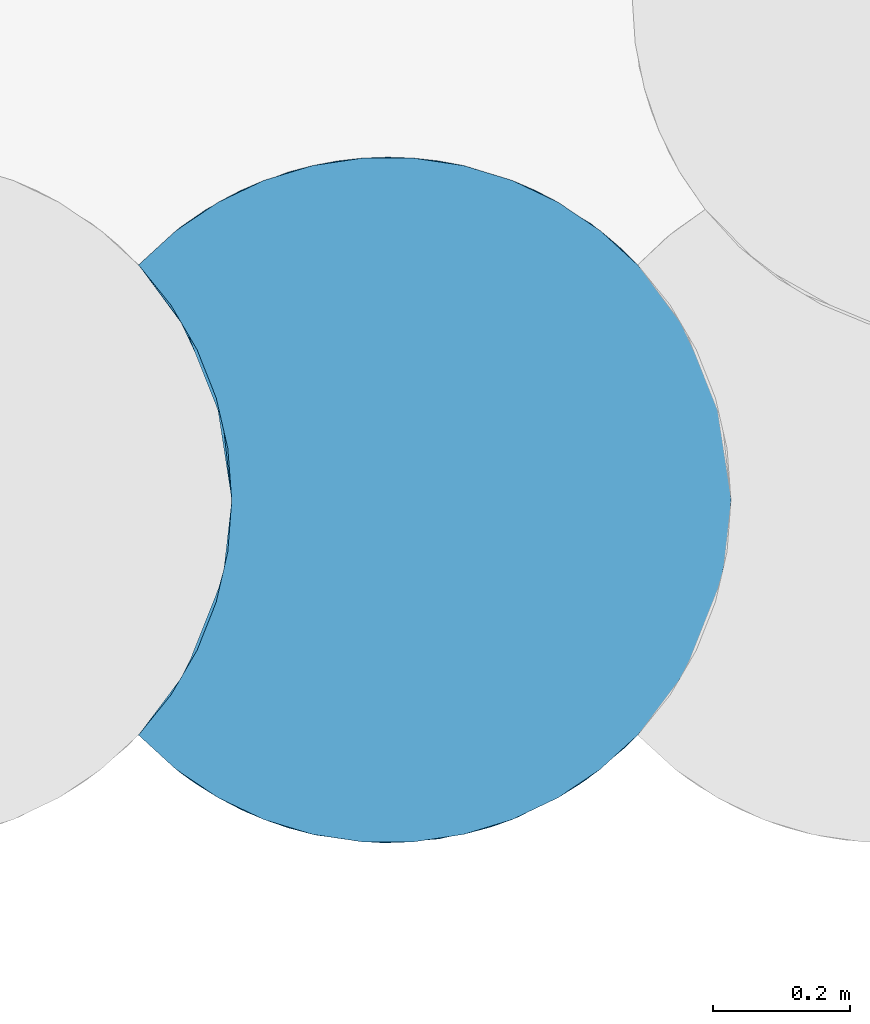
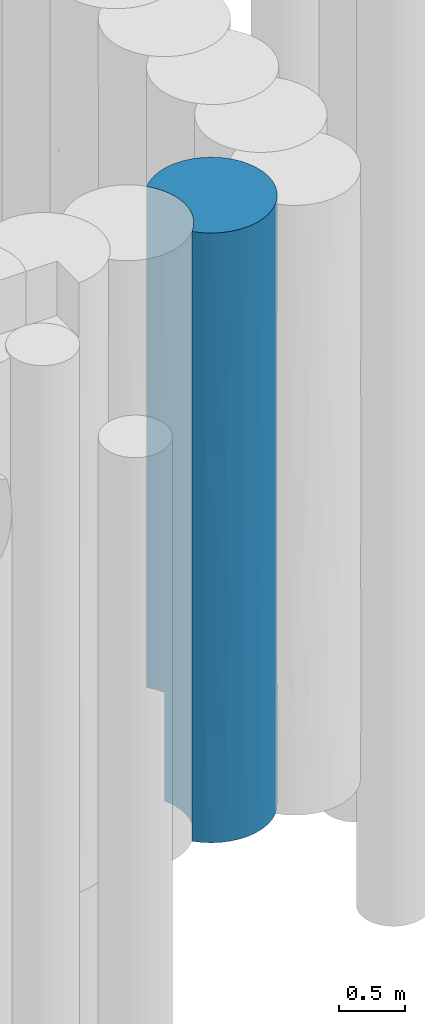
# One storey, part 51 of 104: 1 pile.
"""IFC2X3 building model written with IfcOpenShell, lengths in millimetres."""

import ifcopenshell
import ifcopenshell.guid

model = None  # the IFC model being written
_history = None  # IfcOwnerHistory: only IFC2X3 demands one
_inside = {}  # id of a spatial element -> (the spatial element, [elements in it])
_under = {}  # id of a project, library or spatial element -> (it, [spatial elements below it])
_declared = {}  # id of a project -> (the project, [libraries it declares])
_typed = {}  # id of a type object -> (the type object, [elements of that type])
_made_of = {}  # id of a material, layer set ... -> (it, [elements and type objects made of it])


def new_model(schema):
    """Start an empty IFC model of exactly this schema.

    Asked for "IFC4X3", IfcOpenShell would pick the latest addendum, in which some entities
    have other attributes; the version numbers below select the first issue.
    IFC2X3 requires an IfcOwnerHistory on every rooted entity: one is made here for all.
    """
    global model, _history
    if schema == "IFC4X3":
        model = ifcopenshell.file(schema_version=(4, 3, 0, 0))
    else:
        model = ifcopenshell.file(schema=schema)
    _inside.clear()
    _under.clear()
    _declared.clear()
    _typed.clear()
    _made_of.clear()
    _history = None
    if model.schema == "IFC2X3":
        org = make("IfcOrganization", Name="unknown")
        user = make(
            "IfcPersonAndOrganization",
            ThePerson=make("IfcPerson", FamilyName="unknown"),
            TheOrganization=org,
        )
        app = make(
            "IfcApplication",
            ApplicationDeveloper=org,
            Version="unknown",
            ApplicationFullName="unknown",
            ApplicationIdentifier="unknown",
        )
        _history = make(
            "IfcOwnerHistory",
            OwningUser=user,
            OwningApplication=app,
            ChangeAction="ADDED",
            CreationDate=0,
        )
    return model


def make(cls, **values):
    """One entity of the class cls with the attributes given. An attribute that is None is left unset."""
    return model.create_entity(
        cls, **{name: value for name, value in values.items() if value is not None}
    )


def entity(cls, *values):
    """Any entity or typed value of the class cls, its attributes in the order of the schema. None: left unset."""
    e = model.create_entity(cls)
    for i, value in enumerate(values):
        if value is not None:
            e[i] = value
    return e


def rooted(cls, **values):
    """An entity with a GlobalId (a new one), such as an element, a storey or a relation."""
    return make(cls, GlobalId=ifcopenshell.guid.new(), OwnerHistory=_history, **values)


def si_unit(unit_type, name, prefix=None):
    """IfcSIUnit, for example si_unit("LENGTHUNIT", "METRE", prefix="MILLI")."""
    return make("IfcSIUnit", UnitType=unit_type, Prefix=prefix, Name=name)


def converted_unit(unit_type, name, factor, base, dimensions=None, offset=None):
    """IfcConversionBasedUnit, such as the inch: factor (a typed value) times the base unit."""
    return make(
        "IfcConversionBasedUnit"
        if offset is None
        else "IfcConversionBasedUnitWithOffset",
        ConversionOffset=offset,
        Dimensions=None
        if dimensions is None
        else entity("IfcDimensionalExponents", *dimensions),
        UnitType=unit_type,
        Name=name,
        ConversionFactor=make(
            "IfcMeasureWithUnit", ValueComponent=factor, UnitComponent=base
        ),
    )


def derived_unit(unit_type, elements):
    """IfcDerivedUnit: a product of units, each with its exponent."""
    return make(
        "IfcDerivedUnit",
        Elements=[
            make("IfcDerivedUnitElement", Unit=unit, Exponent=power)
            for unit, power in elements
        ],
        UnitType=unit_type,
    )


def assignment(units):
    """IfcUnitAssignment: the units of a project."""
    return None if units is None else make("IfcUnitAssignment", Units=units)


def point(xyz):
    """IfcCartesianPoint."""
    return None if xyz is None else make("IfcCartesianPoint", Coordinates=xyz)


def direction(xyz):
    """IfcDirection."""
    return None if xyz is None else make("IfcDirection", DirectionRatios=xyz)


def frame(location, z_axis=None, x_axis=None):
    """IfcAxis2Placement3D, a coordinate frame: its origin and axes. An axis left out is left unset."""
    return make(
        "IfcAxis2Placement3D",
        Location=point(location),
        Axis=direction(z_axis),
        RefDirection=direction(x_axis),
    )


def origin():
    """The frame at (0, 0, 0) with its axes left unset."""
    return frame((0.0, 0.0, 0.0))


def place(relative_to, where):
    """IfcLocalPlacement: puts the frame where relative to a parent placement (None: the world)."""
    return make(
        "IfcLocalPlacement", PlacementRelTo=relative_to, RelativePlacement=where
    )


def context(
    kind, dimensions, precision=None, world=None, true_north=None, identifier=None
):
    """IfcGeometricRepresentationContext, for example the 3D "Model" context."""
    return make(
        "IfcGeometricRepresentationContext",
        ContextIdentifier=identifier,
        ContextType=kind,
        CoordinateSpaceDimension=dimensions,
        Precision=precision,
        WorldCoordinateSystem=world,
        TrueNorth=true_north,
    )


def subcontext(parent, identifier, kind, view, scale=None):
    """IfcGeometricRepresentationSubContext, for example "Body" below "Model"."""
    return make(
        "IfcGeometricRepresentationSubContext",
        ContextIdentifier=identifier,
        ContextType=kind,
        ParentContext=parent,
        TargetScale=scale,
        TargetView=view,
    )


def project(units=None, contexts=None):
    """IfcProject with its units and contexts."""
    return rooted(
        "IfcProject",
        Name="project",
        RepresentationContexts=contexts,
        UnitsInContext=assignment(units),
    )


def spatial(cls, under=None, at=None, **own):
    """A site, building, storey or space (cls), placed at a placement, below another one or the project."""
    s = rooted(cls, ObjectPlacement=at, **own)
    if under is not None:
        _under.setdefault(under.id(), (under, []))[1].append(s)
    return s


def faces_of(points, faces, orient=None, outer=None):
    """IfcFace entities. A face is a list of loops; a loop is a list of indices into points, from 0.

    orient and outer hold one flag for each loop. By default every Orientation is true, the
    first loop of a face is its IfcFaceOuterBound and the others are IfcFaceBound.
    """
    made = []
    for i, loops in enumerate(faces):
        bounds = []
        for j, loop in enumerate(loops):
            is_outer = j == 0 if outer is None else outer[i][j]
            bounds.append(
                make(
                    "IfcFaceOuterBound" if is_outer else "IfcFaceBound",
                    Bound=make("IfcPolyLoop", Polygon=[points[k] for k in loop]),
                    Orientation=True if orient is None else orient[i][j],
                )
            )
        made.append(make("IfcFace", Bounds=bounds))
    return made


def faceted_brep(points, faces, orient=None, outer=None, voids=None):
    """IfcFacetedBrep: a solid bounded by flat faces; with voids (closed shells), ...WithVoids."""
    shared = [point(p) for p in points]
    hull = make("IfcClosedShell", CfsFaces=faces_of(shared, faces, orient, outer))
    if voids is None:
        return make("IfcFacetedBrep", Outer=hull)
    return make(
        "IfcFacetedBrepWithVoids",
        Outer=hull,
        Voids=[
            make(cls, CfsFaces=faces_of(shared, fs, o, b)) for cls, fs, o, b in voids
        ],
    )


def shape(context_of_items, identifier, shape_type, items):
    """IfcShapeRepresentation: the items that make up one representation, for example the "Body"."""
    return make(
        "IfcShapeRepresentation",
        ContextOfItems=context_of_items,
        RepresentationIdentifier=identifier,
        RepresentationType=shape_type,
        Items=items,
    )


def source(mapping_origin, context_of_items, identifier, shape_type, items):
    """IfcRepresentationMap: a shape defined once, which mapped items show again and again."""
    return make(
        "IfcRepresentationMap",
        MappingOrigin=mapping_origin,
        MappedRepresentation=shape(context_of_items, identifier, shape_type, items),
    )


def transform(
    local_origin,
    x_axis=None,
    y_axis=None,
    z_axis=None,
    scale=None,
    scale2=None,
    scale3=None,
    uniform=True,
):
    """IfcCartesianTransformationOperator3D, or its non-uniform kind. x_axis, y_axis, z_axis: its Axis1, 2, 3."""
    if uniform:
        return make(
            "IfcCartesianTransformationOperator3D",
            Axis1=direction(x_axis),
            Axis2=direction(y_axis),
            LocalOrigin=point(local_origin),
            Scale=scale,
            Axis3=direction(z_axis),
        )
    return make(
        "IfcCartesianTransformationOperator3DnonUniform",
        Axis1=direction(x_axis),
        Axis2=direction(y_axis),
        LocalOrigin=point(local_origin),
        Scale=scale,
        Axis3=direction(z_axis),
        Scale2=scale2,
        Scale3=scale3,
    )


def mapped(mapping_source, mapping_target):
    """IfcMappedItem: shows the shape of a source again, moved by a transform."""
    return make(
        "IfcMappedItem", MappingSource=mapping_source, MappingTarget=mapping_target
    )


def material(Name=None, Category=None):
    """IfcMaterial."""
    return make("IfcMaterial", Name=Name, Category=Category)


def made_of(thing, what):
    """Note that an element or type object is made of a material, layer set ...; save() writes the relation."""
    if what is not None:
        _made_of.setdefault(what.id(), (what, []))[1].append(thing)
    return thing


def element(
    cls,
    number,
    at=None,
    inside=None,
    cuts=None,
    type_object=None,
    material=None,
    context=None,
    identifier="Body",
    shape_type=None,
    held_by="IfcProductDefinitionShape",
    body=None,
    shapes=None,
    **own,
):
    """One element of the class cls, such as IfcWall. Its Tag is "e" and its number.

    at: its placement. inside: the storey or other place that contains it. cuts: it is an
    opening in that element (IfcRelVoidsElement). A single representation is given by context,
    identifier, shape_type and body (its items); several are given by shapes. held_by: the class
    of the entity that holds the representations. save() writes the other relations.
    """
    e = rooted(cls, Tag="e%d" % number, ObjectPlacement=at, **own)
    if body is not None:
        shapes = [shape(context, identifier, shape_type, body)]
    if shapes is not None:
        e.Representation = make(held_by, Representations=shapes)
    if inside is not None:
        _inside.setdefault(inside.id(), (inside, []))[1].append(e)
    if cuts is not None:
        rooted(
            "IfcRelVoidsElement", RelatingBuildingElement=cuts, RelatedOpeningElement=e
        )
    if type_object is not None:
        _typed.setdefault(type_object.id(), (type_object, []))[1].append(e)
    return made_of(e, material)


def aggregate(whole, parts):
    """IfcRelAggregates: a whole, such as a stair, and the parts it consists of."""
    return rooted("IfcRelAggregates", RelatingObject=whole, RelatedObjects=parts)


def save(model, path):
    """Write the relations noted so far, then the file.

    IfcRelAggregates (storeys below a building ...), IfcRelContainedInSpatialStructure (elements
    in a storey), IfcRelDefinesByType, IfcRelAssociatesMaterial and IfcRelDeclares: one each for
    every whole, place, type object, material and project.
    """
    for whole, parts in _under.values():
        aggregate(whole, parts)
    for where, things in _inside.values():
        rooted(
            "IfcRelContainedInSpatialStructure",
            RelatedElements=things,
            RelatingStructure=where,
        )
    for kind, things in _typed.values():
        rooted("IfcRelDefinesByType", RelatedObjects=things, RelatingType=kind)
    for what, things in _made_of.values():
        rooted("IfcRelAssociatesMaterial", RelatedObjects=things, RelatingMaterial=what)
    for by, libraries in _declared.values():
        rooted("IfcRelDeclares", RelatingContext=by, RelatedDefinitions=libraries)
    model.write(path)


model = new_model("IFC2X3")

# Units and contexts
model_context = context("Model", 3, precision=0.01, world=origin(), true_north=direction((6.12303176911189e-17, 1.0)))
body_context = subcontext(model_context, "Body", "Model", "MODEL_VIEW")
ifc_project = project(units=[si_unit("LENGTHUNIT", "METRE", prefix="MILLI"), si_unit("AREAUNIT", "SQUARE_METRE", prefix="MILLI"), si_unit("VOLUMEUNIT", "CUBIC_METRE"), converted_unit("PLANEANGLEUNIT", "DEGREE", entity("IfcRatioMeasure", 0.0174532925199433), si_unit("PLANEANGLEUNIT", "RADIAN"), dimensions=[0, 0, 0, 0, 0, 0, 0]), si_unit("MASSUNIT", "GRAM", prefix="KILO"), derived_unit("MASSDENSITYUNIT", [(si_unit("MASSUNIT", "GRAM", prefix="KILO"), 1), (si_unit("LENGTHUNIT", "METRE"), -3)]), derived_unit("MOMENTOFINERTIAUNIT", [(si_unit("LENGTHUNIT", "METRE"), 4)]), si_unit("TIMEUNIT", "SECOND"), si_unit("FREQUENCYUNIT", "HERTZ"), si_unit("THERMODYNAMICTEMPERATUREUNIT", "DEGREE_CELSIUS"), derived_unit("THERMALTRANSMITTANCEUNIT", [(si_unit("MASSUNIT", "GRAM", prefix="KILO"), 1), (si_unit("THERMODYNAMICTEMPERATUREUNIT", "KELVIN"), -1), (si_unit("TIMEUNIT", "SECOND"), -3)]), derived_unit("VOLUMETRICFLOWRATEUNIT", [(si_unit("LENGTHUNIT", "METRE"), 3), (si_unit("TIMEUNIT", "SECOND"), -1)]), si_unit("ELECTRICCURRENTUNIT", "AMPERE"), si_unit("ELECTRICVOLTAGEUNIT", "VOLT"), si_unit("POWERUNIT", "WATT"), si_unit("FORCEUNIT", "NEWTON", prefix="KILO"), si_unit("ILLUMINANCEUNIT", "LUX"), si_unit("LUMINOUSFLUXUNIT", "LUMEN"), si_unit("LUMINOUSINTENSITYUNIT", "CANDELA"), derived_unit("USERDEFINED", [(si_unit("MASSUNIT", "GRAM", prefix="KILO"), -1), (si_unit("LENGTHUNIT", "METRE"), -2), (si_unit("TIMEUNIT", "SECOND"), 3), (si_unit("LUMINOUSFLUXUNIT", "LUMEN"), 1)]), derived_unit("LINEARVELOCITYUNIT", [(si_unit("LENGTHUNIT", "METRE"), 1), (si_unit("TIMEUNIT", "SECOND"), -1)]), si_unit("PRESSUREUNIT", "PASCAL"), derived_unit("USERDEFINED", [(si_unit("LENGTHUNIT", "METRE"), -2), (si_unit("MASSUNIT", "GRAM", prefix="KILO"), 1), (si_unit("TIMEUNIT", "SECOND"), -2)]), derived_unit("LINEARFORCEUNIT", [(si_unit("MASSUNIT", "GRAM", prefix="KILO"), 1), (si_unit("LENGTHUNIT", "METRE"), 1), (si_unit("TIMEUNIT", "SECOND"), -2), (si_unit("LENGTHUNIT", "METRE"), -1)]), derived_unit("PLANARFORCEUNIT", [(si_unit("MASSUNIT", "GRAM", prefix="KILO"), 1), (si_unit("LENGTHUNIT", "METRE"), 1), (si_unit("TIMEUNIT", "SECOND"), -2), (si_unit("LENGTHUNIT", "METRE"), -2)])], contexts=[model_context])

# Site, building, storey
site_placement = place(None, origin())
site = spatial("IfcSite", under=ifc_project, at=site_placement, Name="Theater aan de Parade", CompositionType="ELEMENT")
building_placement = place(site_placement, origin())
building = spatial("IfcBuilding", under=site, at=building_placement, Name="Theater aan de Parade", CompositionType="ELEMENT")
storey_placement = place(building_placement, frame((0.0, 0.0, -5520.0)))
storey = spatial("IfcBuildingStorey", under=building, at=storey_placement, Name="-2 kelder", CompositionType="ELEMENT", Elevation=-5520.0)

# Pile
ifc_material = material(Name="00_PBT_MAT_grout")
shared_shape = source(origin(), body_context, "Body", "Brep", [
    faceted_brep([(852.778565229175, 612.705865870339, 0.0), (862.377155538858, 556.859898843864, 0.0), (865.595272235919, 500.222804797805, 0.0), (861.634305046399, 437.411357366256, 0.0), (849.822713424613, 375.628321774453, 0.0), (830.347523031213, 315.817421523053, 0.0), (803.517959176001, 258.926886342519, 0.0), (769.755868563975, 205.851929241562, 0.0), (729.594749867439, 157.434177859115, 0.0), (674.963193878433, 107.423251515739, 0.0), (613.55014617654, 66.0357708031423, 0.0), (546.698111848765, 34.1737070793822, 0.0), (475.873547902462, 12.5357105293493, 0.0), (402.629961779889, 1.59625940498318, 0.0), (328.573875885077, 1.5952722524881, 0.0), (255.329632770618, 12.5328533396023, 0.0), (184.503810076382, 34.1692860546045, 0.0), (117.650023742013, 66.0302740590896, 0.0), (56.2348577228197, 107.417339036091, 0.0), (1.5952722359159, 157.434240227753, 0.0), (49.0404771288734, 216.122746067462, 0.0), (87.1123213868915, 281.283492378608, 0.0), (114.943469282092, 351.432016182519, 0.0), (131.899884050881, 424.970225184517, 0.0), (137.595272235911, 500.222804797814, 0.0), (134.377353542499, 556.858162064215, 0.0), (124.780071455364, 612.699341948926, 0.0), (108.920050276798, 667.114846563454, 0.0), (86.9917285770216, 719.409540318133, 0.0), (814.991728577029, 719.409540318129, 0.0), (836.91792516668, 667.120848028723, 0.0), (854.020876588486, 607.182745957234, 1094.02741643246), (814.991728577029, 719.409540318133, 1000.0), (841.026602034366, 655.029298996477, 4762.58295011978), (803.517959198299, 741.518723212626, 5620.0), (830.347522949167, 684.628188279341, 5620.0), (865.595272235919, 500.222804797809, 2810.0), (865.595272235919, 500.222804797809, 1561.53772500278), (851.888657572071, 616.492935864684, 2185.76883482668), (703.21017069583, 869.026519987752, 2200.60581933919), (746.362503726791, 824.285013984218, 3310.00690634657), (803.401066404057, 741.730747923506, 2328.0665543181), (841.026601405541, 655.029300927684, 3857.71264231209), (865.595272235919, 500.222804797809, 4215.0), (865.595272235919, 500.222804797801, 4058.46229407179), (865.595272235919, 500.222804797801, 3123.07541185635), (476.571159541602, 987.751626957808, 4283.64346164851), (580.714838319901, 951.580282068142, 4088.45269383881), (439.453512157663, 994.737678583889, 3309.99801466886), (1.5952722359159, 843.011369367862, 5620.0), (56.2348580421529, 893.028270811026, 5620.0), (63.7853417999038, 898.858936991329, 4676.61157762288), (674.970941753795, 893.01625574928, 1000.0), (729.595272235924, 843.011369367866, 1000.0), (769.755868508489, 794.593680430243, 5620.0), (787.472388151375, 768.587666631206, 4395.38615293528), (328.567290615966, 998.849848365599, 1000.0), (291.74077990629, 994.738238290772, 2360.44460435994), (439.453512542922, 994.73767852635, 2129.89388414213), (580.720158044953, 951.577746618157, 2525.44905794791), (613.556610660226, 934.406147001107, 1000.0), (729.584965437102, 843.022313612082, 5620.0), (861.634305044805, 563.034252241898, 5620.0), (150.473767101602, 951.579357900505, 2319.63983707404), (117.637172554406, 934.407996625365, 1000.0), (65.20174308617, 899.927355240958, 1974.73221121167), (841.063509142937, 654.91590642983, 2981.48445914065), (865.595272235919, 500.222804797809, 5620.0), (849.822713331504, 624.817288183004, 5620.0), (790.702617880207, 763.440860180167, 1000.0), (762.167438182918, 804.739663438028, 1000.0), (100.386739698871, 924.091221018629, 3418.67983370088), (1.5952722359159, 843.011369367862, 2561.53489296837), (1.5952722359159, 843.011369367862, 4123.06978593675), (806.389759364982, 736.231745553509, 3307.45861235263), (699.528820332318, 872.363081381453, 4401.3864864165), (546.702158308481, 966.270330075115, 1000.0), (475.874328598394, 987.909722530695, 1000.0), (56.2225002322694, 893.018537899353, 1000.0), (674.963193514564, 893.022358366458, 5620.0), (328.123378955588, 998.816684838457, 3417.58259392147), (402.627039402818, 998.849567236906, 1000.0), (613.550145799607, 934.409839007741, 5620.0), (184.491893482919, 966.271693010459, 1000.0), (255.319907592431, 987.910557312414, 1000.0), (219.515588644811, 978.407628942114, 3586.41160869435), (256.001465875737, 988.064170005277, 4554.82452433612), (1.5952722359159, 843.011369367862, 1000.0), (150.486217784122, 951.585291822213, 4517.65925043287), (661.854395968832, 903.001319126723, 3156.01166058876), (117.650024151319, 934.415335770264, 5620.0), (365.601936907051, 1000.22280475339, 4389.6941936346), (546.698111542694, 966.271902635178, 5620.0), (402.629961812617, 998.849350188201, 5620.0), (475.873547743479, 987.90989910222, 5620.0), (328.573876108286, 998.850337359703, 5620.0), (184.503810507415, 966.276323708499, 5620.0), (255.329633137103, 987.912756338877, 5620.0), (219.515588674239, 22.0379806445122, 994.94278989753), (645.023985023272, 85.5909265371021, 810.753821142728), (86.1751177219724, 85.5851590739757, 994.944437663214), (66.7455540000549, 99.3626721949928, 4465.0963538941), (117.650024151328, 66.0302738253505, 5620.0), (56.2348580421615, 107.417338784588, 5620.0), (365.601937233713, 0.222804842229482, 1466.90780681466), (657.019148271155, 93.9321151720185, 2810.0), (524.729861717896, 26.2226123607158, 2282.32447259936), (645.023985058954, 85.5909265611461, 1690.12843262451), (511.686987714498, 22.0416564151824, 1326.40558646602), (774.199042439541, 212.051052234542, 2004.68503856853), (750.432965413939, 181.005089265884, 1199.37007734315), (817.828225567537, 286.949843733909, 1628.24107952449), (439.454566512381, 5.70808848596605, 2810.0), (511.686987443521, 22.041656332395, 4293.59441641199), (365.601937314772, 0.222804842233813, 4153.09219296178), (219.515589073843, 22.0379805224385, 3492.737141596), (257.99851149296, 11.9370922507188, 4473.5794527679), (150.486218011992, 48.8603176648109, 4474.58907716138), (645.02398465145, 85.5909262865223, 3929.87156502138), (645.023984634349, 85.5909262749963, 4809.24617760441), (184.503810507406, 34.1692858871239, 5620.0), (853.84539995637, 392.46468315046, 3590.76885291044), (85.7027751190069, 85.9038575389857, 3590.76885378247), (817.828225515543, 286.94984362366, 3991.75892080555), (841.026602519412, 345.416312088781, 4728.84314183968), (805.355489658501, 262.292245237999, 4786.45848896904), (1.5952722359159, 157.434240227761, 1561.52154057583), (74.8586278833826, 93.4400573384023, 2515.8121240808), (1.5952722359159, 157.434240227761, 4058.45447328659), (556.377232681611, 38.0515772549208, 3195.12647963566), (805.355489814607, 262.292245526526, 833.541510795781), (861.634305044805, 437.411357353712, 5620.0), (402.629961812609, 1.59625940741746, 5620.0), (328.573876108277, 1.5952722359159, 5620.0), (750.432965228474, 181.005089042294, 4420.62992182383), (717.695690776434, 145.222388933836, 3615.31495996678), (841.026602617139, 345.416312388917, 891.156858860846), (546.698111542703, 34.1737069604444, 5620.0), (475.873547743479, 12.5357104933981, 5620.0), (1.5952722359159, 157.434240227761, 3123.06706728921), (355.80421273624, 0.318678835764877, 3263.19189052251), (262.138092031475, 11.0432755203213, 2028.99523178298), (353.172110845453, 0.377163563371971, 2369.07591278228), (729.584965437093, 157.423295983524, 5620.0), (674.963193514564, 107.423251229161, 5620.0), (150.486217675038, 48.8603178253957, 1796.17663660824), (255.329633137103, 12.5328532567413, 5620.0), (854.390248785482, 394.963739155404, 2342.30655876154), (830.347522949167, 315.817421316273, 5620.0), (849.822713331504, 375.628321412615, 5620.0), (826.042446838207, 305.316675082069, 2950.47114766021), (613.550145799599, 66.0357705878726, 5620.0), (161.633251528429, 43.7148704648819, 2735.88706443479), (1.5952722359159, 157.434240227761, 5620.0), (769.755868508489, 205.85192916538, 5620.0), (711.742683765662, 139.415419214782, 2094.13410580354), (803.517959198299, 258.926886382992, 5620.0), (1.5952722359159, 157.434240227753, 2496.92458741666), (750.432965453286, 181.005089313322, 2810.0), (49.0404771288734, 784.322863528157, 5620.0), (87.1123213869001, 719.162117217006, 5620.0), (114.943469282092, 649.013593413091, 5620.0), (131.899884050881, 575.475384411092, 5620.0), (137.595272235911, 500.222804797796, 5620.0), (131.899884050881, 424.970225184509, 5620.0), (114.943469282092, 351.432016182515, 5620.0), (87.1123213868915, 281.283492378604, 5620.0), (49.0404771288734, 216.122746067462, 5620.0), (137.595272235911, 500.222804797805, 1561.53772533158), (137.595272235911, 500.222804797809, 2810.0), (118.129955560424, 638.376408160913, 2185.76884068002), (124.811099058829, 612.564863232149, 4657.58649590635), (137.595272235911, 500.222804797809, 4215.0), (125.973811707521, 607.397438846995, 1095.37767137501), (69.3075384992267, 752.461816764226, 4657.58649237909), (102.353272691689, 684.613696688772, 3905.98762480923), (57.7018130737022, 771.35099282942, 3773.13755671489), (86.9917285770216, 719.409540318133, 1000.0), (129.79994300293, 588.169163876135, 3749.95709791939), (48.9622639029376, 784.436101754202, 1000.0), (114.521440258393, 650.360842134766, 3074.4744607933), (73.2384738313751, 745.610255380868, 2499.01518659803), (137.595272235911, 500.222804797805, 3123.07541190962), (137.595272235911, 500.222804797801, 4058.46229404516), (124.811099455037, 387.880748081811, 4607.47022373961), (69.3075392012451, 247.983794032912, 4607.47022365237), (56.4533644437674, 227.16988210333, 2029.23114695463), (102.353273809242, 315.831915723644, 1827.31664125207), (124.811099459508, 387.880748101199, 1012.52977635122), (69.3075392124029, 247.983794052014, 1012.52977643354), (129.72280222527, 411.845804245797, 3590.76885293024), (102.353273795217, 315.831915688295, 3792.68335898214), (128.169789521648, 403.596498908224, 2509.81800557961), (60.97830622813, 234.240086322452, 3110.18199494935), (103.558997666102, 318.900421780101, 2894.95173457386)], [[[0, 1, 2, 3, 4, 5, 6, 7, 8, 9, 10, 11, 12, 13, 14, 15, 16, 17, 18, 19, 20, 21, 22, 23, 24, 25, 26, 27, 28, 29, 30]], [[31, 30, 32]], [[33, 34, 35]], [[36, 37, 38]], [[39, 40, 41]], [[41, 38, 32]], [[42, 33, 43, 44, 45, 36]], [[46, 47, 48]], [[49, 50, 51]], [[52, 39, 53]], [[54, 34, 55]], [[56, 57, 58]], [[59, 39, 60]], [[48, 47, 59]], [[30, 29, 32]], [[38, 37, 31]], [[54, 55, 61]], [[43, 33, 62]], [[63, 64, 65]], [[66, 36, 38]], [[43, 62, 67]], [[2, 1, 31]], [[68, 33, 35]], [[1, 0, 31]], [[33, 55, 34]], [[69, 70, 41]], [[53, 39, 70]], [[70, 39, 41]], [[71, 72, 73]], [[74, 55, 42]], [[55, 75, 61]], [[76, 77, 58]], [[69, 41, 32]], [[65, 64, 78]], [[75, 79, 61]], [[80, 58, 57]], [[58, 77, 81]], [[40, 74, 41]], [[59, 76, 58]], [[75, 82, 79]], [[83, 63, 84]], [[55, 40, 75]], [[57, 84, 63]], [[80, 85, 86]], [[63, 83, 64]], [[38, 31, 32]], [[63, 85, 57]], [[87, 72, 65]], [[88, 85, 71]], [[39, 89, 40]], [[57, 56, 84]], [[90, 88, 51]], [[89, 39, 59]], [[91, 46, 48]], [[82, 47, 92]], [[47, 46, 92]], [[58, 81, 56]], [[85, 88, 86]], [[93, 94, 46]], [[80, 91, 48]], [[71, 85, 63]], [[93, 91, 95]], [[96, 88, 90]], [[86, 95, 91]], [[55, 33, 42]], [[33, 68, 62]], [[86, 91, 80]], [[90, 51, 50]], [[97, 86, 96]], [[59, 58, 48]], [[71, 63, 65]], [[60, 76, 59]], [[51, 71, 73]], [[60, 39, 52]], [[41, 74, 66]], [[89, 75, 40]], [[82, 75, 47]], [[96, 86, 88]], [[95, 86, 97]], [[31, 37, 2]], [[31, 0, 30]], [[59, 47, 89]], [[75, 89, 47]], [[93, 46, 91]], [[92, 46, 94]], [[58, 80, 48]], [[57, 85, 80]], [[55, 74, 40]], [[66, 74, 42]], [[36, 66, 42]], [[41, 66, 38]], [[87, 65, 78]], [[71, 65, 72]], [[71, 51, 88]], [[49, 51, 73]], [[98, 16, 15]], [[99, 11, 10]], [[98, 100, 17]], [[101, 102, 103]], [[104, 98, 14]], [[105, 106, 107]], [[12, 11, 108]], [[109, 110, 111]], [[108, 13, 12]], [[18, 100, 19]], [[112, 113, 114]], [[115, 116, 117]], [[104, 14, 13]], [[110, 107, 99]], [[113, 118, 119]], [[99, 108, 11]], [[120, 102, 117]], [[104, 13, 108]], [[121, 45, 44]], [[116, 115, 114]], [[101, 122, 117]], [[123, 124, 125]], [[126, 100, 127]], [[128, 122, 101]], [[129, 113, 112]], [[116, 120, 117]], [[130, 6, 5]], [[3, 2, 37]], [[131, 44, 43, 67]], [[114, 132, 133]], [[113, 132, 114]], [[134, 135, 123]], [[130, 136, 111]], [[113, 137, 138]], [[122, 128, 139]], [[110, 8, 7]], [[140, 141, 142]], [[99, 8, 110]], [[119, 143, 144]], [[130, 7, 6]], [[100, 98, 145]], [[136, 3, 37]], [[108, 106, 104]], [[145, 98, 141]], [[116, 133, 146]], [[147, 37, 36, 45]], [[130, 5, 136]], [[148, 124, 149]], [[112, 140, 142]], [[131, 149, 124]], [[150, 111, 147]], [[132, 113, 138]], [[136, 5, 4]], [[151, 119, 144]], [[134, 143, 119]], [[152, 122, 127]], [[153, 128, 101]], [[134, 154, 143]], [[134, 125, 154]], [[155, 110, 109]], [[118, 113, 129]], [[119, 137, 113]], [[148, 125, 124]], [[17, 100, 18]], [[148, 156, 125]], [[147, 45, 121]], [[129, 105, 118]], [[10, 9, 99]], [[135, 134, 118]], [[17, 16, 98]], [[121, 124, 123]], [[131, 124, 44]], [[3, 136, 4]], [[147, 136, 37]], [[14, 98, 15]], [[141, 98, 104]], [[127, 100, 145]], [[19, 100, 126]], [[119, 151, 137]], [[134, 119, 118]], [[99, 9, 8]], [[108, 99, 107]], [[127, 122, 139]], [[115, 117, 122]], [[124, 121, 44]], [[150, 147, 121]], [[150, 121, 123]], [[136, 147, 111]], [[142, 141, 104]], [[152, 141, 115]], [[127, 139, 157, 126]], [[152, 127, 145]], [[123, 158, 150]], [[150, 158, 109]], [[154, 125, 156]], [[134, 123, 125]], [[111, 110, 130]], [[7, 130, 110]], [[133, 116, 114]], [[120, 116, 146]], [[141, 152, 145]], [[122, 152, 115]], [[106, 129, 112]], [[129, 106, 105]], [[155, 105, 107]], [[135, 105, 158]], [[104, 112, 142]], [[112, 114, 140]], [[114, 115, 140]], [[141, 140, 115]], [[104, 106, 112]], [[107, 106, 108]], [[102, 101, 117]], [[153, 101, 103]], [[105, 135, 118]], [[123, 135, 158]], [[150, 109, 111]], [[155, 109, 158]], [[105, 155, 158]], [[110, 155, 107]], [[92, 94, 93, 95, 97, 96, 90, 50, 49, 159, 160, 161, 162, 163, 164, 165, 166, 167, 153, 103, 102, 120, 146, 133, 132, 138, 137, 151, 144, 143, 154, 156, 148, 149, 131, 67, 62, 68, 35, 34, 54, 61, 79, 82]], [[168, 169, 170]], [[171, 161, 160]], [[163, 171, 172]], [[24, 173, 25]], [[73, 174, 49]], [[173, 26, 25]], [[173, 27, 26]], [[162, 161, 171]], [[171, 174, 175]], [[174, 73, 176]], [[173, 177, 27]], [[178, 171, 175]], [[72, 87, 179]], [[175, 180, 178]], [[49, 174, 159]], [[168, 170, 173]], [[159, 174, 160]], [[181, 72, 179]], [[172, 171, 178]], [[175, 174, 176]], [[160, 174, 171]], [[181, 180, 176]], [[181, 179, 177]], [[28, 27, 177]], [[178, 169, 182, 183, 172]], [[162, 171, 163]], [[170, 169, 180]], [[178, 180, 169]], [[170, 180, 181]], [[170, 181, 177]], [[176, 73, 72]], [[175, 176, 180]], [[181, 176, 72]], [[177, 173, 170]], [[24, 168, 173]], [[165, 184, 185, 166]], [[184, 164, 163]], [[186, 126, 157]], [[187, 188, 189]], [[21, 20, 189]], [[166, 185, 167]], [[183, 182, 190]], [[24, 188, 168]], [[184, 163, 172, 183]], [[191, 185, 184]], [[168, 188, 192]], [[165, 164, 184]], [[192, 182, 169, 168]], [[21, 189, 188, 22]], [[22, 188, 23]], [[193, 186, 157]], [[128, 153, 185]], [[126, 189, 19]], [[23, 188, 24]], [[192, 190, 182]], [[193, 157, 139, 128]], [[19, 189, 20]], [[167, 185, 153]], [[128, 185, 193]], [[187, 189, 186]], [[191, 184, 190]], [[126, 186, 189]], [[187, 194, 192]], [[187, 186, 194]], [[185, 191, 193]], [[183, 190, 184]], [[194, 193, 191]], [[191, 190, 194]], [[188, 187, 192]], [[186, 193, 194]], [[192, 194, 190]], [[84, 56, 81, 77, 76, 60, 52, 53, 70, 69, 32, 177, 179, 87, 78, 64, 83]], [[177, 32, 29, 28]]]),
])
pile_placement = place(storey_placement, frame((41040.2628578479, 37980.5904596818, -3840.0)))
element("IfcPile", 1, at=pile_placement, inside=storey, material=ifc_material, Name="17_PBT_SFO_grondkering_rond:Ø1000 (grondkering)", ObjectType="17_PBT_SFO_grondkering_rond:Ø1000 (grondkering)", PredefinedType="NOTDEFINED", context=body_context, shape_type="MappedRepresentation", body=[
    mapped(shared_shape, transform((0.0, 0.0, 0.0), scale=1.0)),
])

save(model, "model.ifc")
